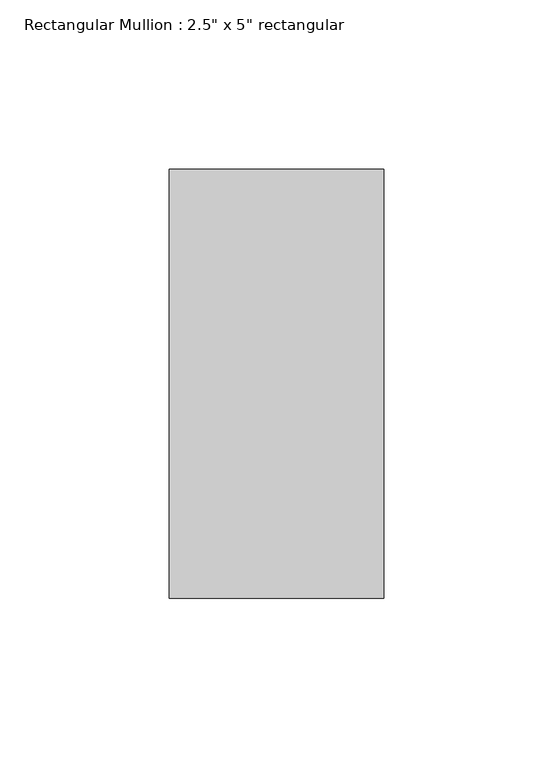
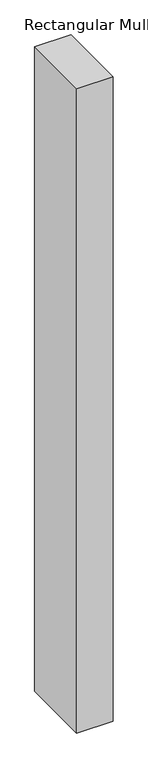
"""IFC4 building model written with IfcOpenShell, lengths in millimetres: member geometry."""

import ifcopenshell
import ifcopenshell.guid

model = None  # the IFC model being written
_history = None  # IfcOwnerHistory: only IFC2X3 demands one
_inside = {}  # id of a spatial element -> (the spatial element, [elements in it])
_under = {}  # id of a project, library or spatial element -> (it, [spatial elements below it])
_declared = {}  # id of a project -> (the project, [libraries it declares])
_typed = {}  # id of a type object -> (the type object, [elements of that type])
_made_of = {}  # id of a material, layer set ... -> (it, [elements and type objects made of it])


def new_model(schema):
    """Start an empty IFC model of exactly this schema.

    Asked for "IFC4X3", IfcOpenShell would pick the latest addendum, in which some entities
    have other attributes; the version numbers below select the first issue.
    IFC2X3 requires an IfcOwnerHistory on every rooted entity: one is made here for all.
    """
    global model, _history
    if schema == "IFC4X3":
        model = ifcopenshell.file(schema_version=(4, 3, 0, 0))
    else:
        model = ifcopenshell.file(schema=schema)
    _inside.clear()
    _under.clear()
    _declared.clear()
    _typed.clear()
    _made_of.clear()
    _history = None
    if model.schema == "IFC2X3":
        org = make("IfcOrganization", Name="unknown")
        user = make(
            "IfcPersonAndOrganization",
            ThePerson=make("IfcPerson", FamilyName="unknown"),
            TheOrganization=org,
        )
        app = make(
            "IfcApplication",
            ApplicationDeveloper=org,
            Version="unknown",
            ApplicationFullName="unknown",
            ApplicationIdentifier="unknown",
        )
        _history = make(
            "IfcOwnerHistory",
            OwningUser=user,
            OwningApplication=app,
            ChangeAction="ADDED",
            CreationDate=0,
        )
    return model


def make(cls, **values):
    """One entity of the class cls with the attributes given. An attribute that is None is left unset."""
    return model.create_entity(
        cls, **{name: value for name, value in values.items() if value is not None}
    )


def rooted(cls, **values):
    """An entity with a GlobalId (a new one), such as an element, a storey or a relation."""
    return make(cls, GlobalId=ifcopenshell.guid.new(), OwnerHistory=_history, **values)


def si_unit(unit_type, name, prefix=None):
    """IfcSIUnit, for example si_unit("LENGTHUNIT", "METRE", prefix="MILLI")."""
    return make("IfcSIUnit", UnitType=unit_type, Prefix=prefix, Name=name)


def assignment(units):
    """IfcUnitAssignment: the units of a project."""
    return None if units is None else make("IfcUnitAssignment", Units=units)


def point(xyz):
    """IfcCartesianPoint."""
    return None if xyz is None else make("IfcCartesianPoint", Coordinates=xyz)


def direction(xyz):
    """IfcDirection."""
    return None if xyz is None else make("IfcDirection", DirectionRatios=xyz)


def frame(location, z_axis=None, x_axis=None):
    """IfcAxis2Placement3D, a coordinate frame: its origin and axes. An axis left out is left unset."""
    return make(
        "IfcAxis2Placement3D",
        Location=point(location),
        Axis=direction(z_axis),
        RefDirection=direction(x_axis),
    )


def origin():
    """The frame at (0, 0, 0) with its axes left unset."""
    return frame((0.0, 0.0, 0.0))


def place(relative_to, where):
    """IfcLocalPlacement: puts the frame where relative to a parent placement (None: the world)."""
    return make(
        "IfcLocalPlacement", PlacementRelTo=relative_to, RelativePlacement=where
    )


def context(
    kind, dimensions, precision=None, world=None, true_north=None, identifier=None
):
    """IfcGeometricRepresentationContext, for example the 3D "Model" context."""
    return make(
        "IfcGeometricRepresentationContext",
        ContextIdentifier=identifier,
        ContextType=kind,
        CoordinateSpaceDimension=dimensions,
        Precision=precision,
        WorldCoordinateSystem=world,
        TrueNorth=true_north,
    )


def project(units=None, contexts=None):
    """IfcProject with its units and contexts."""
    return rooted(
        "IfcProject",
        Name="project",
        RepresentationContexts=contexts,
        UnitsInContext=assignment(units),
    )


def spatial(cls, under=None, at=None, **own):
    """A site, building, storey or space (cls), placed at a placement, below another one or the project."""
    s = rooted(cls, ObjectPlacement=at, **own)
    if under is not None:
        _under.setdefault(under.id(), (under, []))[1].append(s)
    return s


def polyline(points):
    """IfcPolyline through the points."""
    return make("IfcPolyline", Points=[point(p) for p in points])


def outline(outer, holes=None, kind="AREA"):
    """IfcArbitraryClosedProfileDef: a profile drawn as a closed curve; with holes, ...WithVoids."""
    if holes is None:
        return make("IfcArbitraryClosedProfileDef", ProfileType=kind, OuterCurve=outer)
    return make(
        "IfcArbitraryProfileDefWithVoids",
        ProfileType=kind,
        OuterCurve=outer,
        InnerCurves=holes,
    )


def extrude(swept, where, along, depth):
    """IfcExtrudedAreaSolid: the profile swept, set in the frame where, extruded along a direction by depth."""
    return make(
        "IfcExtrudedAreaSolid",
        SweptArea=swept,
        Position=where,
        ExtrudedDirection=direction(along),
        Depth=depth,
    )


def shape(context_of_items, identifier, shape_type, items):
    """IfcShapeRepresentation: the items that make up one representation, for example the "Body"."""
    return make(
        "IfcShapeRepresentation",
        ContextOfItems=context_of_items,
        RepresentationIdentifier=identifier,
        RepresentationType=shape_type,
        Items=items,
    )


def source(mapping_origin, context_of_items, identifier, shape_type, items):
    """IfcRepresentationMap: a shape defined once, which mapped items show again and again."""
    return make(
        "IfcRepresentationMap",
        MappingOrigin=mapping_origin,
        MappedRepresentation=shape(context_of_items, identifier, shape_type, items),
    )


def transform(
    local_origin,
    x_axis=None,
    y_axis=None,
    z_axis=None,
    scale=None,
    scale2=None,
    scale3=None,
    uniform=True,
):
    """IfcCartesianTransformationOperator3D, or its non-uniform kind. x_axis, y_axis, z_axis: its Axis1, 2, 3."""
    if uniform:
        return make(
            "IfcCartesianTransformationOperator3D",
            Axis1=direction(x_axis),
            Axis2=direction(y_axis),
            LocalOrigin=point(local_origin),
            Scale=scale,
            Axis3=direction(z_axis),
        )
    return make(
        "IfcCartesianTransformationOperator3DnonUniform",
        Axis1=direction(x_axis),
        Axis2=direction(y_axis),
        LocalOrigin=point(local_origin),
        Scale=scale,
        Axis3=direction(z_axis),
        Scale2=scale2,
        Scale3=scale3,
    )


def mapped(mapping_source, mapping_target):
    """IfcMappedItem: shows the shape of a source again, moved by a transform."""
    return make(
        "IfcMappedItem", MappingSource=mapping_source, MappingTarget=mapping_target
    )


def made_of(thing, what):
    """Note that an element or type object is made of a material, layer set ...; save() writes the relation."""
    if what is not None:
        _made_of.setdefault(what.id(), (what, []))[1].append(thing)
    return thing


def element(
    cls,
    number,
    at=None,
    inside=None,
    cuts=None,
    type_object=None,
    material=None,
    context=None,
    identifier="Body",
    shape_type=None,
    held_by="IfcProductDefinitionShape",
    body=None,
    shapes=None,
    **own,
):
    """One element of the class cls, such as IfcWall. Its Tag is "e" and its number.

    at: its placement. inside: the storey or other place that contains it. cuts: it is an
    opening in that element (IfcRelVoidsElement). A single representation is given by context,
    identifier, shape_type and body (its items); several are given by shapes. held_by: the class
    of the entity that holds the representations. save() writes the other relations.
    """
    e = rooted(cls, Tag="e%d" % number, ObjectPlacement=at, **own)
    if body is not None:
        shapes = [shape(context, identifier, shape_type, body)]
    if shapes is not None:
        e.Representation = make(held_by, Representations=shapes)
    if inside is not None:
        _inside.setdefault(inside.id(), (inside, []))[1].append(e)
    if cuts is not None:
        rooted(
            "IfcRelVoidsElement", RelatingBuildingElement=cuts, RelatedOpeningElement=e
        )
    if type_object is not None:
        _typed.setdefault(type_object.id(), (type_object, []))[1].append(e)
    return made_of(e, material)


def aggregate(whole, parts):
    """IfcRelAggregates: a whole, such as a stair, and the parts it consists of."""
    return rooted("IfcRelAggregates", RelatingObject=whole, RelatedObjects=parts)


def save(model, path):
    """Write the relations noted so far, then the file.

    IfcRelAggregates (storeys below a building ...), IfcRelContainedInSpatialStructure (elements
    in a storey), IfcRelDefinesByType, IfcRelAssociatesMaterial and IfcRelDeclares: one each for
    every whole, place, type object, material and project.
    """
    for whole, parts in _under.values():
        aggregate(whole, parts)
    for where, things in _inside.values():
        rooted(
            "IfcRelContainedInSpatialStructure",
            RelatedElements=things,
            RelatingStructure=where,
        )
    for kind, things in _typed.values():
        rooted("IfcRelDefinesByType", RelatedObjects=things, RelatingType=kind)
    for what, things in _made_of.values():
        rooted("IfcRelAssociatesMaterial", RelatedObjects=things, RelatingMaterial=what)
    for by, libraries in _declared.values():
        rooted("IfcRelDeclares", RelatingContext=by, RelatedDefinitions=libraries)
    model.write(path)


def member_c617b399(model_context):
    return source(origin(), model_context, "Body", "SweptSolid", [
        extrude(outline(polyline([(0.0, 63.5), (0.0, -63.5), (-63.5, -63.5), (-63.5, 63.5), (0.0, 63.5)])), frame((0.0, 0.0, -1188.8151287), z_axis=(0.0, 0.0, 1.0), x_axis=(1.0, 0.0, 0.0)), (0.0, 0.0, 1.0), 1188.8151287),
    ])


if __name__ == "__main__":
    model = new_model("IFC4")
    model_context = context("Model", 3, world=origin())
    ifc_project = project(units=[si_unit("LENGTHUNIT", "METRE", prefix="MILLI")], contexts=[model_context])
    site = spatial("IfcSite", under=ifc_project)
    building = spatial("IfcBuilding", under=site)
    placement = place(None, origin())
    member_shape = member_c617b399(model_context)
    element("IfcMember", 1, ObjectType="Rectangular Mullion : 2.5\" x 5\" rectangular", at=placement, inside=building, context=model_context, shape_type="MappedRepresentation", body=[
        mapped(member_shape, transform((0.0, 0.0, 0.0), x_axis=(1.0, 0.0, 0.0), y_axis=(0.0, 1.0, 0.0), z_axis=(0.0, 0.0, 1.0))),
    ])
    save(model, "model.ifc")
